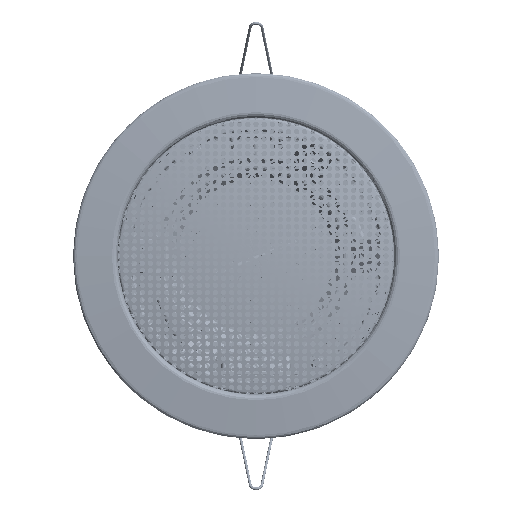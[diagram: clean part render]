
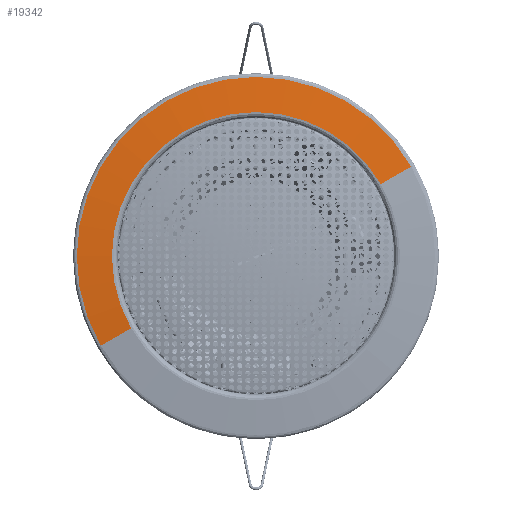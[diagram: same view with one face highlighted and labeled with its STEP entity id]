
A CAD part, top view. The second image highlights one B-rep face of the part: STEP entity #19342.
In plain terms, the highlighted conical face has half-angle 84.822 degrees and reference radius 59.658 mm.
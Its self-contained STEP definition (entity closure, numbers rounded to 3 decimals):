
#655 = CARTESIAN_POINT ( 'NONE',  ( 0., 66.135, 32.428 ) ) ;
#9848 = EDGE_CURVE ( 'NONE', #85913, #133728, #134622, .T. ) ;
#13739 = VERTEX_POINT ( 'NONE', #204706 ) ;
#19342 = ADVANCED_FACE ( 'NONE', ( #32227 ), #90953, .T. ) ;
#19575 = AXIS2_PLACEMENT_3D ( 'NONE', #38968, #248848, #81007 ) ;
#31143 = DIRECTION ( 'NONE',  ( 0., 1., 0. ) ) ;
#32227 = FACE_OUTER_BOUND ( 'NONE', #54916, .T. ) ;
#33127 = CARTESIAN_POINT ( 'NONE',  ( 0., -66.135, 32.428 ) ) ;
#33441 = EDGE_CURVE ( 'NONE', #125067, #133728, #134888, .T. ) ;
#34259 = ORIENTED_EDGE ( 'NONE', *, *, #9848, .F. ) ;
#38968 = CARTESIAN_POINT ( 'NONE',  ( 0., 0., 33.015 ) ) ;
#41812 = AXIS2_PLACEMENT_3D ( 'NONE', #260194, #94157, #31143 ) ;
#54849 = ORIENTED_EDGE ( 'NONE', *, *, #33441, .T. ) ;
#54916 = EDGE_LOOP ( 'NONE', ( #90575, #54849, #34259, #126954 ) ) ;
#67433 = AXIS2_PLACEMENT_3D ( 'NONE', #117907, #117015, #116117 ) ;
#73710 = VECTOR ( 'NONE', #119578, 1000. ) ;
#81007 = DIRECTION ( 'NONE',  ( 0., -1., 0. ) ) ;
#85913 = VERTEX_POINT ( 'NONE', #655 ) ;
#90575 = ORIENTED_EDGE ( 'NONE', *, *, #99379, .T. ) ;
#90953 = CONICAL_SURFACE ( 'NONE', #19575, 59.658, 1.48 ) ;
#94157 = DIRECTION ( 'NONE',  ( 0., 0., -1. ) ) ;
#97119 = EDGE_CURVE ( 'NONE', #13739, #85913, #217421, .T. ) ;
#99379 = EDGE_CURVE ( 'NONE', #13739, #125067, #141990, .T. ) ;
#116117 = DIRECTION ( 'NONE',  ( 0., 1., 0. ) ) ;
#117015 = DIRECTION ( 'NONE',  ( 0., 0., -1. ) ) ;
#117907 = CARTESIAN_POINT ( 'NONE',  ( 0., 0., 32.428 ) ) ;
#119578 = DIRECTION ( 'NONE',  ( 0., 0.996, -0.09 ) ) ;
#125067 = VERTEX_POINT ( 'NONE', #187308 ) ;
#126954 = ORIENTED_EDGE ( 'NONE', *, *, #97119, .F. ) ;
#133728 = VERTEX_POINT ( 'NONE', #261371 ) ;
#134622 = CIRCLE ( 'NONE', #67433, 66.135 ) ;
#134888 = LINE ( 'NONE', #33127, #190218 ) ;
#135590 = DIRECTION ( 'NONE',  ( 0., -0.996, -0.09 ) ) ;
#141990 = CIRCLE ( 'NONE', #41812, 53.181 ) ;
#185117 = CARTESIAN_POINT ( 'NONE',  ( 0., 66.135, 32.428 ) ) ;
#187308 = CARTESIAN_POINT ( 'NONE',  ( 0., -53.181, 33.602 ) ) ;
#190218 = VECTOR ( 'NONE', #135590, 1000. ) ;
#204706 = CARTESIAN_POINT ( 'NONE',  ( 0., 53.181, 33.602 ) ) ;
#217421 = LINE ( 'NONE', #185117, #73710 ) ;
#248848 = DIRECTION ( 'NONE',  ( 0., 0., -1. ) ) ;
#260194 = CARTESIAN_POINT ( 'NONE',  ( 0., 0., 33.602 ) ) ;
#261371 = CARTESIAN_POINT ( 'NONE',  ( 0., -66.135, 32.428 ) ) ;
